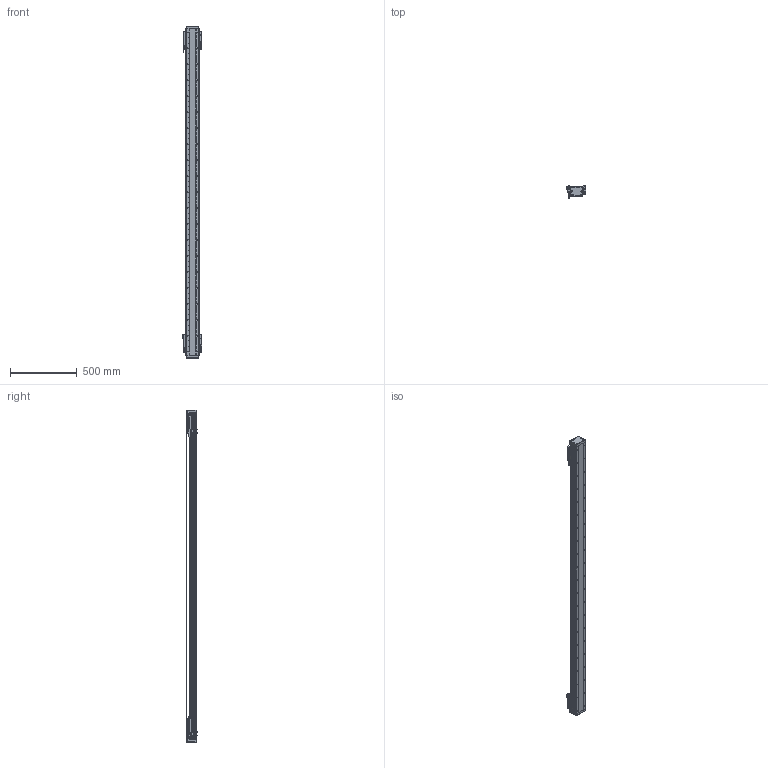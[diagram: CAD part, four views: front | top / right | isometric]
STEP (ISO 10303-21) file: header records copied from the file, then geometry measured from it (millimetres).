
FILE_DESCRIPTION (( 'STEP AP203' ), '1' );
FILE_NAME ('DA-B95-2-B15-T2120-C010-0.2 直线电机.STEP', '2023-05-06T06:36:48', ( '微软用户' ), ( '微软中国' ), 'SwSTEP 2.0', 'SolidWorks 2019', '' );
FILE_SCHEMA (( 'CONFIG_CONTROL_DESIGN' ));
Length unit declared in the file: millimetre
Products named in the file (34): 葩璃 PM-Y45^DA-A95-B15-T-C010-0.2-N 眻盄萇儂; 复件 复件 18252-0001-002-00 钢带垫块^DA-A95-B15-T-C010-0.2-N 直线电机; 66245-BU95-V 幗紩賑怢; 66245-BU95-V-00 珨极趙賑雄怢啣; 复件 66245-BU95-HT-V-01 滑动台板^66245-BU95-V-00 一体化滑动台板; 葩璃 BKM015-W060-C1-TP-DA-0.2^DA-A95-B15-T-C010-0.2-N 眻盄萇儂; 复件 复件 18252-0001-004-00 钢带端盖^DA-A95-B15-T-C010-0.2-N 直线电机; 复件 DA95-B15-YB-A-00 压板A^66245-BU95-V 滚珠滑台; LMDK-2-R001-V5-L02-C1-F00，0.2M 读数头^DA-A95-B15-T-C010-0.2-N 直线电机_DMA-010-0.2; 葩璃 DA95-B15-DP--B-00 菜えB^66245-BU95-V 幗紩賑怢; 葩璃 DA95-GT-T-00^IU-BU95-L 菁釱絳寢_DA95; 复件 纯铜油杯 6x6mm^66245-BU95-V 滚珠滑台; 复件 复件 18252-0001-003-00 钢带拉块^DA-A95-B15-T-C010-0.2-N 直线电机; DA-B95-2-B15-T2120-C010-0.2 眻盄萇儂; PM-T45 光电开关^DA-A95-B15-T-C010-0.2-N 直线电机; DA95-HXJ-00 缓冲橡胶^DA-A95-B15-T-C010-0.2-N 直线电机; B15 XD-U-02L ｴﾅﾕ､ｳﾟ^DA-A95-B15-T-C010-0.2-N ﾖｱﾏﾟｵ扈銈XD-U-02L; DA-A95-GYP-00 光电感应片^DA-A95-B15-T-C010-0.2-N 直线电机; 复件 DA95-DK-00 挡块^66245-BU95-V 滚珠滑台; 葩璃 DA95-B15-DP-A-00 菜えA^66245-BU95-V 幗紩賑怢; 复件 六角薄螺母 M3^DA-A95-B15-T-C010-0.2-N 直线电机_GB_FASTENER_NUT_STNAB M3-C; 复件 DKW-HXJ-JY-00 缓冲橡胶^DA-A95-B15-T-C010-0.2-N 直线电机; 复件 DA95-MFP-01 密封片^66245-BU95-V 滚珠滑台; IU-BU95-L-00 菁釱_L2460; 复件 DA95-DB-00  挡板^66245-BU95-V 滚珠滑台; IU-BU95-L 菁釱絳寢; 葩璃 BKMA01-W060-TRL^DA-A95-B15-T-C010-0.2-N 眻盄萇儂; 复件 DKW-KGZ-ZJ-00 中间光电开关支架^DA-A95-B15-T-C010-0.2-N 直线电机; 复件 DKW-GYP-ZJ-00 中间光电感应片^DA-A95-B15-T-C010-0.2-N 直线电机; 复件 DA95-HK-GT-00 滑块钢轨^66245-BU95-V-00 一体化滑动台板; 复件 DA95-B15-YB-B-00 压板B^66245-BU95-V 滚珠滑台; 复件 DA95-B15 钢带盖板^DA-A95-B15-T-C010-0.2-N 直线电机
Assembly tree (80 placements, depth 4):
  DA-B95-2-B15-T2120-C010-0.2 眻盄萇儂
    IU-BU95-L 菁釱絳寢
      IU-BU95-L-00 菁釱_L2460
      葩璃 DA95-GT-T-00^IU-BU95-L 菁釱絳寢_DA95  x2
    66245-BU95-V 幗紩賑怢
      66245-BU95-V-00 珨极趙賑雄怢啣
        复件 66245-BU95-HT-V-01 滑动台板^66245-BU95-V-00 一体化滑动台板
        复件 DA95-HK-GT-00 滑块钢轨^66245-BU95-V-00 一体化滑动台板  x2
      葩璃 DA95-B15-DP-A-00 菜えA^66245-BU95-V 幗紩賑怢
      复件 DA95-B15-YB-A-00 压板A^66245-BU95-V 滚珠滑台
      复件 DA95-B15-YB-B-00 压板B^66245-BU95-V 滚珠滑台
      复件 DA95-DB-00  挡板^66245-BU95-V 滚珠滑台  x4
      复件 DA95-DK-00 挡块^66245-BU95-V 滚珠滑台  x2
      复件 DA95-MFP-01 密封片^66245-BU95-V 滚珠滑台  x4
      复件 纯铜油杯 6x6mm^66245-BU95-V 滚珠滑台  x2
      葩璃 DA95-B15-DP--B-00 菜えB^66245-BU95-V 幗紩賑怢
    66245-BU95-V 幗紩賑怢
      66245-BU95-V-00 珨极趙賑雄怢啣
        复件 66245-BU95-HT-V-01 滑动台板^66245-BU95-V-00 一体化滑动台板
        复件 DA95-HK-GT-00 滑块钢轨^66245-BU95-V-00 一体化滑动台板  x2
      葩璃 DA95-B15-DP-A-00 菜えA^66245-BU95-V 幗紩賑怢
      复件 DA95-B15-YB-A-00 压板A^66245-BU95-V 滚珠滑台
      复件 DA95-B15-YB-B-00 压板B^66245-BU95-V 滚珠滑台
      复件 DA95-DB-00  挡板^66245-BU95-V 滚珠滑台  x4
      复件 DA95-DK-00 挡块^66245-BU95-V 滚珠滑台  x2
      复件 DA95-MFP-01 密封片^66245-BU95-V 滚珠滑台  x4
      复件 纯铜油杯 6x6mm^66245-BU95-V 滚珠滑台  x2
      葩璃 DA95-B15-DP--B-00 菜えB^66245-BU95-V 幗紩賑怢
    DA-A95-GYP-00 光电感应片^DA-A95-B15-T-C010-0.2-N 直线电机  x2
    LMDK-2-R001-V5-L02-C1-F00，0.2M 读数头^DA-A95-B15-T-C010-0.2-N 直线电机_DMA-010-0.2  x2
    复件 DKW-KGZ-ZJ-00 中间光电开关支架^DA-A95-B15-T-C010-0.2-N 直线电机
    葩璃 PM-Y45^DA-A95-B15-T-C010-0.2-N 眻盄萇儂
    复件 DKW-GYP-ZJ-00 中间光电感应片^DA-A95-B15-T-C010-0.2-N 直线电机
    葩璃 BKM015-W060-C1-TP-DA-0.2^DA-A95-B15-T-C010-0.2-N 眻盄萇儂  x2
    复件 DKW-HXJ-JY-00 缓冲橡胶^DA-A95-B15-T-C010-0.2-N 直线电机  x2
    PM-T45 光电开关^DA-A95-B15-T-C010-0.2-N 直线电机  x4
    B15 XD-U-02L ｴﾅﾕ､ｳﾟ^DA-A95-B15-T-C010-0.2-N ﾖｱﾏﾟｵ扈銈XD-U-02L
    复件 复件 18252-0001-003-00 钢带拉块^DA-A95-B15-T-C010-0.2-N 直线电机  x2
    复件 复件 18252-0001-002-00 钢带垫块^DA-A95-B15-T-C010-0.2-N 直线电机  x2
    复件 复件 18252-0001-004-00 钢带端盖^DA-A95-B15-T-C010-0.2-N 直线电机  x2
    复件 DA95-B15 钢带盖板^DA-A95-B15-T-C010-0.2-N 直线电机
    DA95-HXJ-00 缓冲橡胶^DA-A95-B15-T-C010-0.2-N 直线电机  x4
    葩璃 BKMA01-W060-TRL^DA-A95-B15-T-C010-0.2-N 眻盄萇儂
    复件 六角薄螺母 M3^DA-A95-B15-T-C010-0.2-N 直线电机_GB_FASTENER_NUT_STNAB M3-C  x6
Bounding box: 145.4 x 90.2 x 2496 mm (x, y, z)
Volume: 8131991.8 mm3; surface area: 2690968.9 mm2
Topology: 75 solids, 93 shells, 4184 faces, 11764 edges, 7455 vertices
Faces by surface type: cylinder 2141, plane 1511, cone 464, torus 64, sphere 4
Entity records: 100660 total; most frequent: CARTESIAN_POINT 26294, ORIENTED_EDGE 14886, DIRECTION 14416, EDGE_CURVE 7443, AXIS2_PLACEMENT_3D 5481, VERTEX_POINT 4857, LINE 3454, VECTOR 3454
